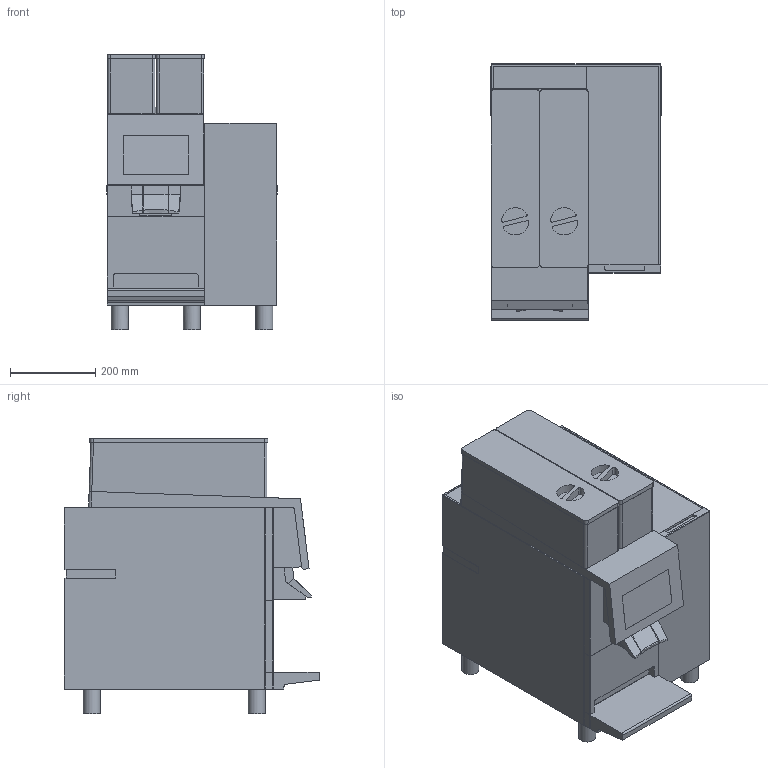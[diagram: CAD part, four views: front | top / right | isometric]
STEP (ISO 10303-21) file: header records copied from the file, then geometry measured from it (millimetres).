
FILE_DESCRIPTION(/* description */ ('Unknown'),/* implementation_level */ '2;1');
FILE_NAME(/* name */ 'HM_BW4c-CTM-F',/* time_stamp */ '2026-08-14T14:29:09+02:00',/* author */ ('Unknown'),/* organization */ ('Unknown'),/* preprocessor_version */ 'ST-DEVELOPER v20',/* originating_system */ 'Solid Edge',/* authorisation */ 'Unknown');
FILE_SCHEMA (('AUTOMOTIVE_DESIGN {1 0 10303 214 3 1 1}'));
Length unit declared in the file: millimetre
Products named in the file (1): HM_BW4c-CTM-F
Bounding box: 399.3 x 599.39 x 645.98 mm (x, y, z)
Volume: 101273374.7 mm3; surface area: 1753315.6 mm2
Topology: 1 solids, 1 shells, 271 faces, 738 edges, 473 vertices
Faces by surface type: plane 196, cylinder 71, sphere 4
Full cylindrical faces by diameter (mm): 40 x6
Entity records: 10355 total; most frequent: CARTESIAN_POINT 1469, ORIENTED_EDGE 1452, DIRECTION 1427, EDGE_CURVE 726, LINE 569, VECTOR 569, VERTEX_POINT 471, AXIS2_PLACEMENT_3D 429
